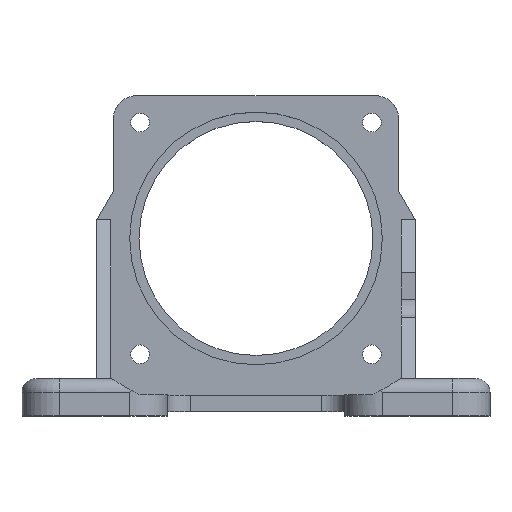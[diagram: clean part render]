
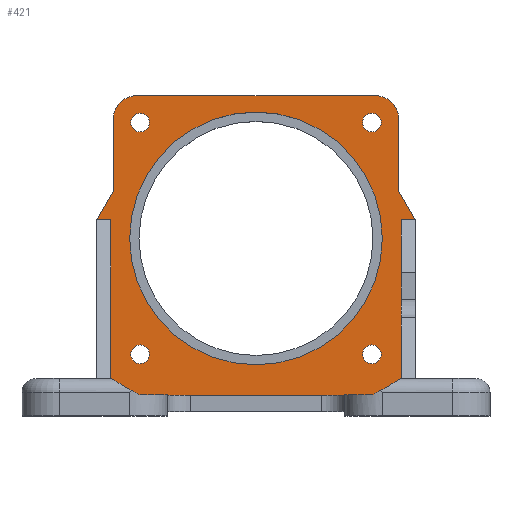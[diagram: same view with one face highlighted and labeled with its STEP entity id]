
A CAD part, top view. The second image highlights one B-rep face of the part: STEP entity #421.
In plain terms, the highlighted planar face has unit normal (0, 0, 1).
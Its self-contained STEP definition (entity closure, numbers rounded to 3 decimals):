
#180=CARTESIAN_POINT('',(31.,42.,4.5));
#181=VERTEX_POINT('',#180);
#188=CARTESIAN_POINT('',(31.,8.,4.5));
#189=VERTEX_POINT('',#188);
#190=CARTESIAN_POINT('',(31.0,8.0,4.5));
#191=DIRECTION('',(0.0,1.0,0.0));
#192=VECTOR('',#191,34.);
#193=LINE('',#190,#192);
#194=EDGE_CURVE('',#189,#181,#193,.T.);
#219=CARTESIAN_POINT('',(34.,42.,4.5));
#220=VERTEX_POINT('',#219);
#227=CARTESIAN_POINT('',(31.,42.,4.5));
#228=DIRECTION('',(1.0,0.0,0.0));
#229=VECTOR('',#228,3.);
#230=LINE('',#227,#229);
#231=EDGE_CURVE('',#181,#220,#230,.T.);
#261=CARTESIAN_POINT('',(0.,36.455,4.5));
#262=DIRECTION('',(0.0,0.0,1.0));
#263=DIRECTION('',(1.0,0.0,0.0));
#264=AXIS2_PLACEMENT_3D('',#261,#262,#263);
#265=PLANE('',#264);
#266=ORIENTED_EDGE('',*,*,#194,.T.);
#267=ORIENTED_EDGE('',*,*,#231,.T.);
#268=CARTESIAN_POINT('',(30.5,48.,4.5));
#269=VERTEX_POINT('',#268);
#270=CARTESIAN_POINT('',(30.5,48.,4.5));
#271=DIRECTION('',(0.504,-0.864,0.0));
#272=VECTOR('',#271,6.946);
#273=LINE('',#270,#272);
#274=EDGE_CURVE('',#269,#220,#273,.T.);
#275=ORIENTED_EDGE('',*,*,#274,.F.);
#276=CARTESIAN_POINT('',(30.5,63.5,4.5));
#277=VERTEX_POINT('',#276);
#278=CARTESIAN_POINT('',(30.5,63.5,4.5));
#279=DIRECTION('',(0.0,-1.0,0.0));
#280=VECTOR('',#279,15.5);
#281=LINE('',#278,#280);
#282=EDGE_CURVE('',#277,#269,#281,.T.);
#283=ORIENTED_EDGE('',*,*,#282,.F.);
#284=CARTESIAN_POINT('',(25.5,68.5,4.5));
#285=VERTEX_POINT('',#284);
#286=CARTESIAN_POINT('',(25.5,63.5,4.5));
#287=DIRECTION('',(0.0,0.0,-1.));
#288=DIRECTION('',(0.707,0.707,0.0));
#289=AXIS2_PLACEMENT_3D('',#286,#287,#288);
#290=CIRCLE('',#289,5.);
#291=EDGE_CURVE('',#285,#277,#290,.T.);
#292=ORIENTED_EDGE('',*,*,#291,.F.);
#293=CARTESIAN_POINT('',(-25.5,68.5,4.5));
#294=VERTEX_POINT('',#293);
#295=CARTESIAN_POINT('',(-25.5,68.5,4.5));
#296=DIRECTION('',(1.0,0.0,0.0));
#297=VECTOR('',#296,51.);
#298=LINE('',#295,#297);
#299=EDGE_CURVE('',#294,#285,#298,.T.);
#300=ORIENTED_EDGE('',*,*,#299,.F.);
#301=CARTESIAN_POINT('',(-30.5,63.5,4.5));
#302=VERTEX_POINT('',#301);
#303=CARTESIAN_POINT('',(-25.5,63.5,4.5));
#304=DIRECTION('',(0.0,0.0,-1.));
#305=DIRECTION('',(-0.707,0.707,0.0));
#306=AXIS2_PLACEMENT_3D('',#303,#304,#305);
#307=CIRCLE('',#306,5.);
#308=EDGE_CURVE('',#302,#294,#307,.T.);
#309=ORIENTED_EDGE('',*,*,#308,.F.);
#310=CARTESIAN_POINT('',(-30.5,48.,4.5));
#311=VERTEX_POINT('',#310);
#312=CARTESIAN_POINT('',(-30.5,48.,4.5));
#313=DIRECTION('',(0.0,1.0,0.0));
#314=VECTOR('',#313,15.5);
#315=LINE('',#312,#314);
#316=EDGE_CURVE('',#311,#302,#315,.T.);
#317=ORIENTED_EDGE('',*,*,#316,.F.);
#318=CARTESIAN_POINT('',(-34.,42.0,4.5));
#319=VERTEX_POINT('',#318);
#320=CARTESIAN_POINT('',(-34.,42.0,4.5));
#321=DIRECTION('',(0.504,0.864,0.0));
#322=VECTOR('',#321,6.946);
#323=LINE('',#320,#322);
#324=EDGE_CURVE('',#319,#311,#323,.T.);
#325=ORIENTED_EDGE('',*,*,#324,.F.);
#326=CARTESIAN_POINT('',(-31.,42.,4.5));
#327=VERTEX_POINT('',#326);
#328=CARTESIAN_POINT('',(-34.,42.,4.5));
#329=DIRECTION('',(1.0,0.0,0.0));
#330=VECTOR('',#329,3.0);
#331=LINE('',#328,#330);
#332=EDGE_CURVE('',#319,#327,#331,.T.);
#333=ORIENTED_EDGE('',*,*,#332,.T.);
#334=CARTESIAN_POINT('',(-31.0,8.,4.5));
#335=VERTEX_POINT('',#334);
#336=CARTESIAN_POINT('',(-31.,42.,4.5));
#337=DIRECTION('',(0.0,-1.0,0.0));
#338=VECTOR('',#337,34.);
#339=LINE('',#336,#338);
#340=EDGE_CURVE('',#327,#335,#339,.T.);
#341=ORIENTED_EDGE('',*,*,#340,.T.);
#342=CARTESIAN_POINT('',(-25.0,4.5,4.5));
#343=VERTEX_POINT('',#342);
#344=CARTESIAN_POINT('',(-31.0,8.,4.5));
#345=DIRECTION('',(0.864,-0.504,0.0));
#346=VECTOR('',#345,6.946);
#347=LINE('',#344,#346);
#348=EDGE_CURVE('',#335,#343,#347,.T.);
#349=ORIENTED_EDGE('',*,*,#348,.T.);
#350=CARTESIAN_POINT('',(25.0,4.5,4.5));
#351=VERTEX_POINT('',#350);
#352=CARTESIAN_POINT('',(-25.0,4.5,4.5));
#353=DIRECTION('',(1.0,0.0,0.0));
#354=VECTOR('',#353,50.0);
#355=LINE('',#352,#354);
#356=EDGE_CURVE('',#343,#351,#355,.T.);
#357=ORIENTED_EDGE('',*,*,#356,.T.);
#358=CARTESIAN_POINT('',(25.0,4.5,4.5));
#359=DIRECTION('',(0.864,0.504,0.0));
#360=VECTOR('',#359,6.946);
#361=LINE('',#358,#360);
#362=EDGE_CURVE('',#351,#189,#361,.T.);
#363=ORIENTED_EDGE('',*,*,#362,.T.);
#364=EDGE_LOOP('',(#266,#267,#275,#283,#292,#300,#309,#317,#325,#333,#341,#349,#357,#363));
#365=FACE_OUTER_BOUND('',#364,.T.);
#366=CARTESIAN_POINT('',(22.749,13.251,4.5));
#367=VERTEX_POINT('',#366);
#368=CARTESIAN_POINT('',(24.749,13.251,4.5));
#369=DIRECTION('',(0.0,0.0,-1.0));
#370=DIRECTION('',(1.0,0.0,0.0));
#371=AXIS2_PLACEMENT_3D('',#368,#369,#370);
#372=CIRCLE('',#371,2.0);
#373=EDGE_CURVE('',#367,#367,#372,.T.);
#374=ORIENTED_EDGE('',*,*,#373,.T.);
#375=EDGE_LOOP('',(#374));
#376=FACE_BOUND('',#375,.T.);
#377=CARTESIAN_POINT('',(-26.749,13.251,4.5));
#378=VERTEX_POINT('',#377);
#379=CARTESIAN_POINT('',(-24.749,13.251,4.5));
#380=DIRECTION('',(0.0,0.0,-1.0));
#381=DIRECTION('',(1.0,0.0,0.0));
#382=AXIS2_PLACEMENT_3D('',#379,#380,#381);
#383=CIRCLE('',#382,2.0);
#384=EDGE_CURVE('',#378,#378,#383,.T.);
#385=ORIENTED_EDGE('',*,*,#384,.T.);
#386=EDGE_LOOP('',(#385));
#387=FACE_BOUND('',#386,.T.);
#388=CARTESIAN_POINT('',(-26.749,62.749,4.5));
#389=VERTEX_POINT('',#388);
#390=CARTESIAN_POINT('',(-24.749,62.749,4.5));
#391=DIRECTION('',(0.0,0.0,-1.0));
#392=DIRECTION('',(1.0,0.0,0.0));
#393=AXIS2_PLACEMENT_3D('',#390,#391,#392);
#394=CIRCLE('',#393,2.0);
#395=EDGE_CURVE('',#389,#389,#394,.T.);
#396=ORIENTED_EDGE('',*,*,#395,.T.);
#397=EDGE_LOOP('',(#396));
#398=FACE_BOUND('',#397,.T.);
#399=CARTESIAN_POINT('',(22.749,62.749,4.5));
#400=VERTEX_POINT('',#399);
#401=CARTESIAN_POINT('',(24.749,62.749,4.5));
#402=DIRECTION('',(0.0,0.0,-1.0));
#403=DIRECTION('',(1.0,0.0,0.0));
#404=AXIS2_PLACEMENT_3D('',#401,#402,#403);
#405=CIRCLE('',#404,2.0);
#406=EDGE_CURVE('',#400,#400,#405,.T.);
#407=ORIENTED_EDGE('',*,*,#406,.T.);
#408=EDGE_LOOP('',(#407));
#409=FACE_BOUND('',#408,.T.);
#410=CARTESIAN_POINT('',(27.0,38.,4.5));
#411=VERTEX_POINT('',#410);
#412=CARTESIAN_POINT('',(0.0,38.0,4.5));
#413=DIRECTION('',(0.0,0.0,-1.0));
#414=DIRECTION('',(-1.0,0.0,0.0));
#415=AXIS2_PLACEMENT_3D('',#412,#413,#414);
#416=CIRCLE('',#415,27.0);
#417=EDGE_CURVE('',#411,#411,#416,.T.);
#418=ORIENTED_EDGE('',*,*,#417,.T.);
#419=EDGE_LOOP('',(#418));
#420=FACE_BOUND('',#419,.T.);
#421=ADVANCED_FACE('',(#365,#376,#387,#398,#409,#420),#265,.T.);
